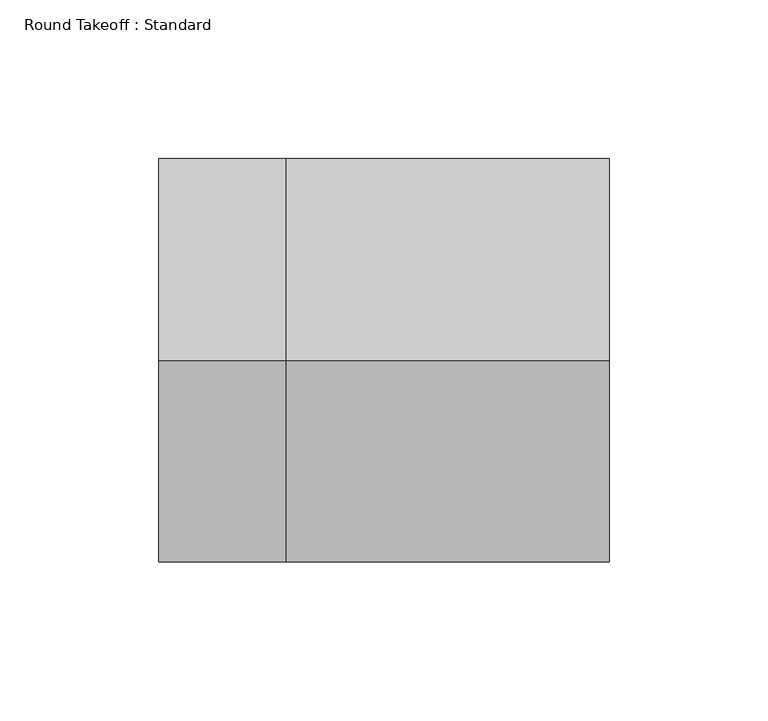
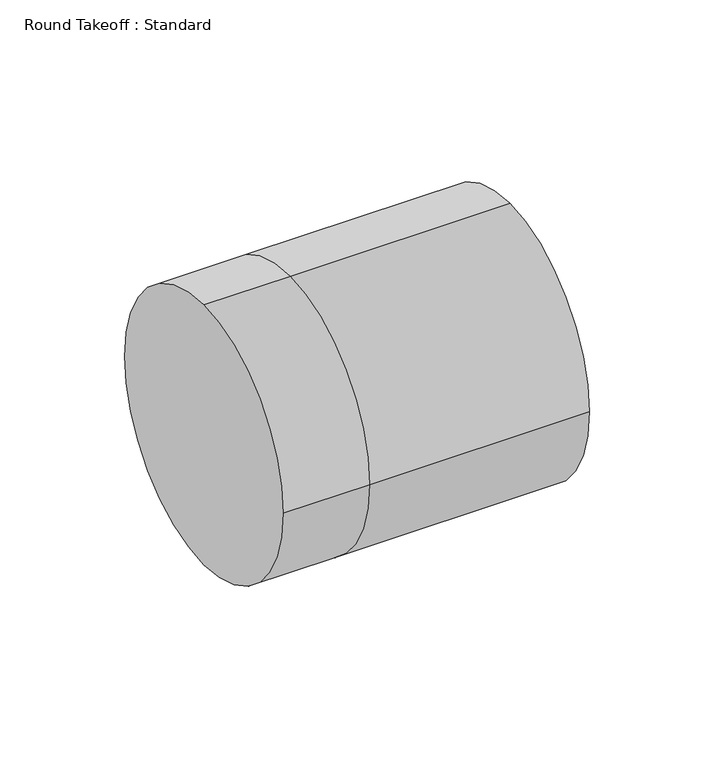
"""IFC4 building model written with IfcOpenShell, lengths in millimetres: duct fitting geometry, Round Takeoff : Standard."""

import ifcopenshell
import ifcopenshell.guid

model = None  # the IFC model being written
_history = None  # IfcOwnerHistory: only IFC2X3 demands one
_inside = {}  # id of a spatial element -> (the spatial element, [elements in it])
_under = {}  # id of a project, library or spatial element -> (it, [spatial elements below it])
_declared = {}  # id of a project -> (the project, [libraries it declares])
_typed = {}  # id of a type object -> (the type object, [elements of that type])
_made_of = {}  # id of a material, layer set ... -> (it, [elements and type objects made of it])


def new_model(schema):
    """Start an empty IFC model of exactly this schema.

    Asked for "IFC4X3", IfcOpenShell would pick the latest addendum, in which some entities
    have other attributes; the version numbers below select the first issue.
    IFC2X3 requires an IfcOwnerHistory on every rooted entity: one is made here for all.
    """
    global model, _history
    if schema == "IFC4X3":
        model = ifcopenshell.file(schema_version=(4, 3, 0, 0))
    else:
        model = ifcopenshell.file(schema=schema)
    _inside.clear()
    _under.clear()
    _declared.clear()
    _typed.clear()
    _made_of.clear()
    _history = None
    if model.schema == "IFC2X3":
        org = make("IfcOrganization", Name="unknown")
        user = make(
            "IfcPersonAndOrganization",
            ThePerson=make("IfcPerson", FamilyName="unknown"),
            TheOrganization=org,
        )
        app = make(
            "IfcApplication",
            ApplicationDeveloper=org,
            Version="unknown",
            ApplicationFullName="unknown",
            ApplicationIdentifier="unknown",
        )
        _history = make(
            "IfcOwnerHistory",
            OwningUser=user,
            OwningApplication=app,
            ChangeAction="ADDED",
            CreationDate=0,
        )
    return model


def make(cls, **values):
    """One entity of the class cls with the attributes given. An attribute that is None is left unset."""
    return model.create_entity(
        cls, **{name: value for name, value in values.items() if value is not None}
    )


def rooted(cls, **values):
    """An entity with a GlobalId (a new one), such as an element, a storey or a relation."""
    return make(cls, GlobalId=ifcopenshell.guid.new(), OwnerHistory=_history, **values)


def si_unit(unit_type, name, prefix=None):
    """IfcSIUnit, for example si_unit("LENGTHUNIT", "METRE", prefix="MILLI")."""
    return make("IfcSIUnit", UnitType=unit_type, Prefix=prefix, Name=name)


def assignment(units):
    """IfcUnitAssignment: the units of a project."""
    return None if units is None else make("IfcUnitAssignment", Units=units)


def point(xyz):
    """IfcCartesianPoint."""
    return None if xyz is None else make("IfcCartesianPoint", Coordinates=xyz)


def direction(xyz):
    """IfcDirection."""
    return None if xyz is None else make("IfcDirection", DirectionRatios=xyz)


def frame(location, z_axis=None, x_axis=None):
    """IfcAxis2Placement3D, a coordinate frame: its origin and axes. An axis left out is left unset."""
    return make(
        "IfcAxis2Placement3D",
        Location=point(location),
        Axis=direction(z_axis),
        RefDirection=direction(x_axis),
    )


def origin():
    """The frame at (0, 0, 0) with its axes left unset."""
    return frame((0.0, 0.0, 0.0))


def place(relative_to, where):
    """IfcLocalPlacement: puts the frame where relative to a parent placement (None: the world)."""
    return make(
        "IfcLocalPlacement", PlacementRelTo=relative_to, RelativePlacement=where
    )


def context(
    kind, dimensions, precision=None, world=None, true_north=None, identifier=None
):
    """IfcGeometricRepresentationContext, for example the 3D "Model" context."""
    return make(
        "IfcGeometricRepresentationContext",
        ContextIdentifier=identifier,
        ContextType=kind,
        CoordinateSpaceDimension=dimensions,
        Precision=precision,
        WorldCoordinateSystem=world,
        TrueNorth=true_north,
    )


def project(units=None, contexts=None):
    """IfcProject with its units and contexts."""
    return rooted(
        "IfcProject",
        Name="project",
        RepresentationContexts=contexts,
        UnitsInContext=assignment(units),
    )


def spatial(cls, under=None, at=None, **own):
    """A site, building, storey or space (cls), placed at a placement, below another one or the project."""
    s = rooted(cls, ObjectPlacement=at, **own)
    if under is not None:
        _under.setdefault(under.id(), (under, []))[1].append(s)
    return s


def circle_curve(where, radius):
    """IfcCircle in the frame where."""
    return make("IfcCircle", Position=where, Radius=radius)


def shape(context_of_items, identifier, shape_type, items):
    """IfcShapeRepresentation: the items that make up one representation, for example the "Body"."""
    return make(
        "IfcShapeRepresentation",
        ContextOfItems=context_of_items,
        RepresentationIdentifier=identifier,
        RepresentationType=shape_type,
        Items=items,
    )


def source(mapping_origin, context_of_items, identifier, shape_type, items):
    """IfcRepresentationMap: a shape defined once, which mapped items show again and again."""
    return make(
        "IfcRepresentationMap",
        MappingOrigin=mapping_origin,
        MappedRepresentation=shape(context_of_items, identifier, shape_type, items),
    )


def transform(
    local_origin,
    x_axis=None,
    y_axis=None,
    z_axis=None,
    scale=None,
    scale2=None,
    scale3=None,
    uniform=True,
):
    """IfcCartesianTransformationOperator3D, or its non-uniform kind. x_axis, y_axis, z_axis: its Axis1, 2, 3."""
    if uniform:
        return make(
            "IfcCartesianTransformationOperator3D",
            Axis1=direction(x_axis),
            Axis2=direction(y_axis),
            LocalOrigin=point(local_origin),
            Scale=scale,
            Axis3=direction(z_axis),
        )
    return make(
        "IfcCartesianTransformationOperator3DnonUniform",
        Axis1=direction(x_axis),
        Axis2=direction(y_axis),
        LocalOrigin=point(local_origin),
        Scale=scale,
        Axis3=direction(z_axis),
        Scale2=scale2,
        Scale3=scale3,
    )


def mapped(mapping_source, mapping_target):
    """IfcMappedItem: shows the shape of a source again, moved by a transform."""
    return make(
        "IfcMappedItem", MappingSource=mapping_source, MappingTarget=mapping_target
    )


def made_of(thing, what):
    """Note that an element or type object is made of a material, layer set ...; save() writes the relation."""
    if what is not None:
        _made_of.setdefault(what.id(), (what, []))[1].append(thing)
    return thing


def element(
    cls,
    number,
    at=None,
    inside=None,
    cuts=None,
    type_object=None,
    material=None,
    context=None,
    identifier="Body",
    shape_type=None,
    held_by="IfcProductDefinitionShape",
    body=None,
    shapes=None,
    **own,
):
    """One element of the class cls, such as IfcWall. Its Tag is "e" and its number.

    at: its placement. inside: the storey or other place that contains it. cuts: it is an
    opening in that element (IfcRelVoidsElement). A single representation is given by context,
    identifier, shape_type and body (its items); several are given by shapes. held_by: the class
    of the entity that holds the representations. save() writes the other relations.
    """
    e = rooted(cls, Tag="e%d" % number, ObjectPlacement=at, **own)
    if body is not None:
        shapes = [shape(context, identifier, shape_type, body)]
    if shapes is not None:
        e.Representation = make(held_by, Representations=shapes)
    if inside is not None:
        _inside.setdefault(inside.id(), (inside, []))[1].append(e)
    if cuts is not None:
        rooted(
            "IfcRelVoidsElement", RelatingBuildingElement=cuts, RelatedOpeningElement=e
        )
    if type_object is not None:
        _typed.setdefault(type_object.id(), (type_object, []))[1].append(e)
    return made_of(e, material)


def aggregate(whole, parts):
    """IfcRelAggregates: a whole, such as a stair, and the parts it consists of."""
    return rooted("IfcRelAggregates", RelatingObject=whole, RelatedObjects=parts)


def save(model, path):
    """Write the relations noted so far, then the file.

    IfcRelAggregates (storeys below a building ...), IfcRelContainedInSpatialStructure (elements
    in a storey), IfcRelDefinesByType, IfcRelAssociatesMaterial and IfcRelDeclares: one each for
    every whole, place, type object, material and project.
    """
    for whole, parts in _under.values():
        aggregate(whole, parts)
    for where, things in _inside.values():
        rooted(
            "IfcRelContainedInSpatialStructure",
            RelatedElements=things,
            RelatingStructure=where,
        )
    for kind, things in _typed.values():
        rooted("IfcRelDefinesByType", RelatedObjects=things, RelatingType=kind)
    for what, things in _made_of.values():
        rooted("IfcRelAssociatesMaterial", RelatedObjects=things, RelatingMaterial=what)
    for by, libraries in _declared.values():
        rooted("IfcRelDeclares", RelatingContext=by, RelatedDefinitions=libraries)
    model.write(path)


def plane_surface(at):
    """IfcPlane: the flat surface through the origin of the frame at, square to its z axis."""
    return make("IfcPlane", Position=at)


def cylinder_surface(at, radius):
    """IfcCylindricalSurface: all points at the distance radius from the z axis of the frame at."""
    return make("IfcCylindricalSurface", Position=at, Radius=radius)


def advanced_brep(points, edges, surfaces, faces):
    """IfcAdvancedBrep: a solid bounded by faces that lie on surfaces and meet in shared edges.

    An edge is (start, end): straight between two places in points (the first is 0);
    or (start, end, curve); or (start, end, curve, False) where it runs against its curve.
    A face is (place in surfaces, loops), or (place, loops, False) where it looks against
    its surface's normal. A loop lists edges by number (the first is 1), with a minus sign
    where the edge is run from its end to its start. The first loop is the outer one.
    """
    corners = [point(p) for p in points]
    vertices = [make("IfcVertexPoint", VertexGeometry=c) for c in corners]
    made = []
    for start, end, *more in edges:
        made.append(
            make(
                "IfcEdgeCurve",
                EdgeStart=vertices[start],
                EdgeEnd=vertices[end],
                EdgeGeometry=more[0] if more else make("IfcPolyline", Points=[corners[start], corners[end]]),
                SameSense=more[1] if len(more) > 1 else True,
            )
        )
    hull = []
    for where, loops, *sense in faces:
        bounds = []
        for j, loop in enumerate(loops):
            ring = [make("IfcOrientedEdge", EdgeElement=made[abs(k) - 1], Orientation=k > 0) for k in loop]
            bounds.append(
                make(
                    "IfcFaceOuterBound" if j == 0 else "IfcFaceBound",
                    Bound=make("IfcEdgeLoop", EdgeList=ring),
                    Orientation=True,
                )
            )
        hull.append(make("IfcAdvancedFace", Bounds=bounds, FaceSurface=surfaces[where], SameSense=sense[0] if sense else True))
    return make("IfcAdvancedBrep", Outer=make("IfcClosedShell", CfsFaces=hull))


def round_takeoff_standard_a3e273fa(model_context):
    return source(origin(), model_context, "Body", "AdvancedBrep", [
        advanced_brep(
        [(101.6, 0.0, 63.5), (101.6, -63.5, 0.0), (101.6, 0.0, -63.5), (101.6, 63.5, 0.0), (0.0, 63.5, 0.0), (0.0, 0.0, 63.5), (0.0, 0.0, -63.5), (0.0, -63.5, 0.0), (-40.1748652, 0.0, 63.5), (-40.1748652, 63.5, 0.0), (-40.1748652, 0.0, -63.5), (-40.1748652, -63.5, 0.0)],
        [
            (0, 1, circle_curve(frame((101.6, 0.0, 0.0), z_axis=(1.0, 0.0, 0.0), x_axis=(0.0, 1.0, 0.0)), 63.5)),
            (1, 2, circle_curve(frame((101.6, 0.0, 0.0), z_axis=(1.0, 0.0, 0.0), x_axis=(0.0, 1.0, 0.0)), 63.5)),
            (2, 3, circle_curve(frame((101.6, 0.0, 0.0), z_axis=(1.0, 0.0, 0.0), x_axis=(0.0, 1.0, 0.0)), 63.5)),
            (3, 0, circle_curve(frame((101.6, 0.0, 0.0), z_axis=(1.0, 0.0, 0.0), x_axis=(0.0, 1.0, 0.0)), 63.5)),
            (3, 4),
            (4, 5, circle_curve(frame((0.0, 0.0, 0.0), z_axis=(1.0, 0.0, 0.0), x_axis=(0.0, 1.0, 0.0)), 63.5)),
            (5, 0),
            (2, 6),
            (6, 4, circle_curve(frame((0.0, 0.0, 0.0), z_axis=(1.0, 0.0, 0.0), x_axis=(0.0, 1.0, 0.0)), 63.5)),
            (1, 7),
            (7, 6, circle_curve(frame((0.0, 0.0, 0.0), z_axis=(1.0, 0.0, 0.0), x_axis=(0.0, 1.0, 0.0)), 63.5)),
            (5, 7, circle_curve(frame((0.0, 0.0, 0.0), z_axis=(1.0, 0.0, 0.0), x_axis=(0.0, 1.0, 0.0)), 63.5)),
            (8, 9, circle_curve(frame((-40.1748652, 0.0, 0.0), z_axis=(-1.0, 0.0, 0.0), x_axis=(0.0, 1.0, 0.0)), 63.5)),
            (9, 10, circle_curve(frame((-40.1748652, 0.0, 0.0), z_axis=(-1.0, 0.0, 0.0), x_axis=(0.0, 1.0, 0.0)), 63.5)),
            (10, 11, circle_curve(frame((-40.1748652, 0.0, 0.0), z_axis=(-1.0, 0.0, 0.0), x_axis=(0.0, 1.0, 0.0)), 63.5)),
            (11, 8, circle_curve(frame((-40.1748652, 0.0, 0.0), z_axis=(-1.0, 0.0, 0.0), x_axis=(0.0, 1.0, 0.0)), 63.5)),
            (8, 5),
            (4, 9),
            (6, 10),
            (7, 11),
        ],
        [
            plane_surface(frame((101.6, 0.0, 0.0), z_axis=(1.0, 0.0, 0.0), x_axis=(0.0, 0.0, 1.0))),
            cylinder_surface(frame((0.0, 0.0, 0.0), z_axis=(-1.0, 0.0, 0.0), x_axis=(0.0, 1.0, 0.0)), 63.5),
            plane_surface(frame((-40.1748652, 0.0, 0.0), z_axis=(-1.0, 0.0, 0.0), x_axis=(0.0, 0.0, 1.0))),
            cylinder_surface(frame((-40.1748652, 0.0, 0.0), z_axis=(-1.0, 0.0, 0.0), x_axis=(0.0, 1.0, 0.0)), 63.5),
        ],
        [
            (0, [[1, 2, 3, 4]]),
            (1, [[-4, 5, 6, 7]]),
            (1, [[-3, 8, 9, -5]]),
            (1, [[-2, 10, 11, -8]]),
            (1, [[-1, -7, 12, -10]]),
            (2, [[13, 14, 15, 16]]),
            (3, [[-13, 17, -6, 18]]),
            (3, [[-14, -18, -9, 19]]),
            (3, [[-15, -19, -11, 20]]),
            (3, [[-16, -20, -12, -17]]),
        ],
    ),
    ])


if __name__ == "__main__":
    model = new_model("IFC4")
    model_context = context("Model", 3, world=origin())
    ifc_project = project(units=[si_unit("LENGTHUNIT", "METRE", prefix="MILLI")], contexts=[model_context])
    site = spatial("IfcSite", under=ifc_project)
    building = spatial("IfcBuilding", under=site)
    placement = place(None, origin())
    round_takeoff_standard_shape = round_takeoff_standard_a3e273fa(model_context)
    element("IfcDuctFitting", 1, ObjectType="Round Takeoff : Standard", at=placement, inside=building, context=model_context, shape_type="MappedRepresentation", body=[
        mapped(round_takeoff_standard_shape, transform((0.0, 0.0, 0.0), x_axis=(1.0, 0.0, 0.0), y_axis=(0.0, 1.0, 0.0), z_axis=(0.0, 0.0, 1.0))),
    ])
    save(model, "model.ifc")
